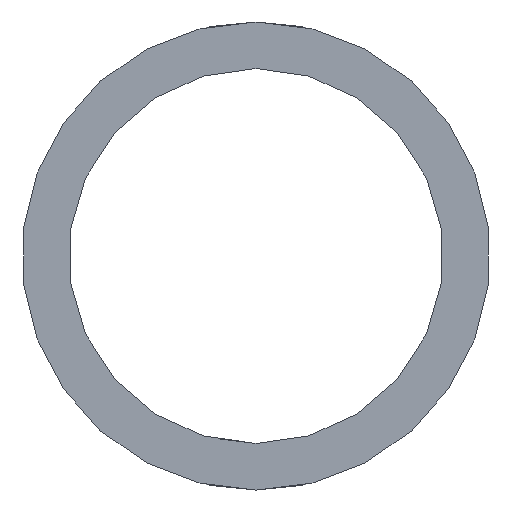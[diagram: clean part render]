
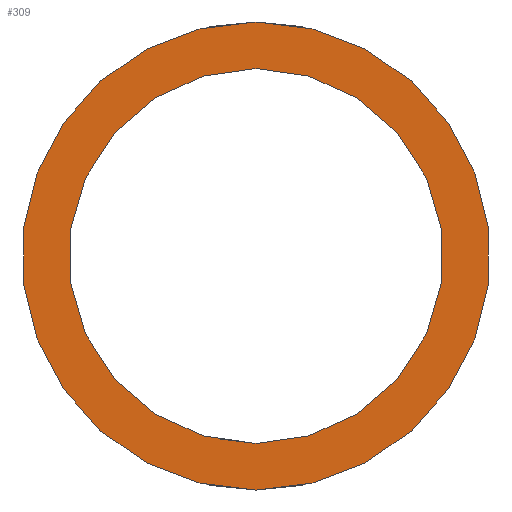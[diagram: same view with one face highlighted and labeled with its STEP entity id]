
A CAD part, front view. The second image highlights one B-rep face of the part: STEP entity #309.
In plain terms, the highlighted planar face has unit normal (0, -1, 0).
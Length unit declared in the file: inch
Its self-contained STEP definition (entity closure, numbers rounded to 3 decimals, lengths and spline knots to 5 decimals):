
#29 = CARTESIAN_POINT ( 'NONE',  ( 0., 0., -0.2015 ) ) ;
#53 = PLANE ( 'NONE',  #422 ) ;
#76 = CARTESIAN_POINT ( 'NONE',  ( 0., 0., 0. ) ) ;
#78 = DIRECTION ( 'NONE',  ( 0., 0., 1. ) ) ;
#80 = CARTESIAN_POINT ( 'NONE',  ( 0., 0., 0. ) ) ;
#100 = FACE_BOUND ( 'NONE', #400, .T. ) ;
#103 = EDGE_CURVE ( 'NONE', #415, #371, #543, .T. ) ;
#135 = CARTESIAN_POINT ( 'NONE',  ( 0., 0., 0. ) ) ;
#142 = DIRECTION ( 'NONE',  ( 0., 0., 1. ) ) ;
#143 = ORIENTED_EDGE ( 'NONE', *, *, #305, .F. ) ;
#168 = CARTESIAN_POINT ( 'NONE',  ( 0., 0., 0. ) ) ;
#194 = AXIS2_PLACEMENT_3D ( 'NONE', #366, #555, #142 ) ;
#221 = DIRECTION ( 'NONE',  ( 0., 0., 1. ) ) ;
#223 = AXIS2_PLACEMENT_3D ( 'NONE', #135, #268, #221 ) ;
#262 = DIRECTION ( 'NONE',  ( 0., 1., 0. ) ) ;
#268 = DIRECTION ( 'NONE',  ( 0., 1., 0. ) ) ;
#279 = CARTESIAN_POINT ( 'NONE',  ( 0., 0., -0.2515 ) ) ;
#303 = ORIENTED_EDGE ( 'NONE', *, *, #456, .T. ) ;
#304 = DIRECTION ( 'NONE',  ( 0., 1., 0. ) ) ;
#305 = EDGE_CURVE ( 'NONE', #320, #527, #460, .T. ) ;
#309 = ADVANCED_FACE ( 'NONE', ( #507, #100 ), #53, .F. ) ;
#320 = VERTEX_POINT ( 'NONE', #390 ) ;
#328 = EDGE_CURVE ( 'NONE', #527, #320, #482, .T. ) ;
#356 = DIRECTION ( 'NONE',  ( 0., 0., 1. ) ) ;
#366 = CARTESIAN_POINT ( 'NONE',  ( 0., 0., 0. ) ) ;
#371 = VERTEX_POINT ( 'NONE', #29 ) ;
#375 = ORIENTED_EDGE ( 'NONE', *, *, #328, .F. ) ;
#390 = CARTESIAN_POINT ( 'NONE',  ( 0., 0., 0.2515 ) ) ;
#400 = EDGE_LOOP ( 'NONE', ( #303, #462 ) ) ;
#410 = AXIS2_PLACEMENT_3D ( 'NONE', #80, #262, #446 ) ;
#415 = VERTEX_POINT ( 'NONE', #591 ) ;
#422 = AXIS2_PLACEMENT_3D ( 'NONE', #76, #485, #356 ) ;
#439 = EDGE_LOOP ( 'NONE', ( #375, #143 ) ) ;
#446 = DIRECTION ( 'NONE',  ( 0., 0., 1. ) ) ;
#456 = EDGE_CURVE ( 'NONE', #371, #415, #470, .T. ) ;
#460 = CIRCLE ( 'NONE', #194, 0.2515 ) ;
#462 = ORIENTED_EDGE ( 'NONE', *, *, #103, .T. ) ;
#470 = CIRCLE ( 'NONE', #223, 0.2015 ) ;
#482 = CIRCLE ( 'NONE', #535, 0.2515 ) ;
#485 = DIRECTION ( 'NONE',  ( 0., 1., 0. ) ) ;
#507 = FACE_OUTER_BOUND ( 'NONE', #439, .T. ) ;
#527 = VERTEX_POINT ( 'NONE', #279 ) ;
#535 = AXIS2_PLACEMENT_3D ( 'NONE', #168, #304, #78 ) ;
#543 = CIRCLE ( 'NONE', #410, 0.2015 ) ;
#555 = DIRECTION ( 'NONE',  ( 0., 1., 0. ) ) ;
#591 = CARTESIAN_POINT ( 'NONE',  ( 0., 0., 0.2015 ) ) ;
